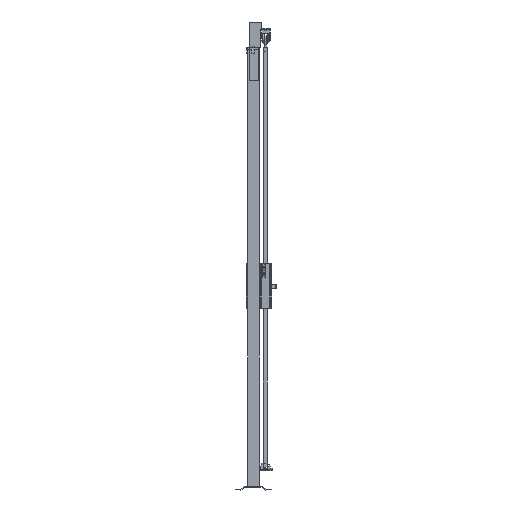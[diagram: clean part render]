
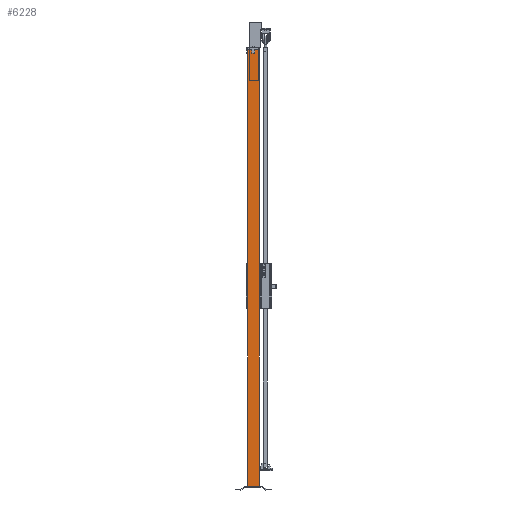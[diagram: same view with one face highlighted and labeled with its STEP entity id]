
A CAD part, left-side view. The second image highlights one B-rep face of the part: STEP entity #6228.
In plain terms, the highlighted planar face has unit normal (-1, 0, 0).
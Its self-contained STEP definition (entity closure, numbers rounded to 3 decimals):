
#523=FACE_OUTER_BOUND('',#972,.T.);
#972=EDGE_LOOP('',(#3824,#3825,#3826,#3827));
#1478=VERTEX_POINT('',#12958);
#1479=VERTEX_POINT('',#12960);
#1482=VERTEX_POINT('',#12967);
#1483=VERTEX_POINT('',#12969);
#2396=EDGE_CURVE('',#1478,#1479,#7173,.T.);
#2400=EDGE_CURVE('',#1482,#1483,#7177,.T.);
#2402=EDGE_CURVE('',#1479,#1482,#7179,.T.);
#2404=EDGE_CURVE('',#1478,#1483,#7181,.T.);
#3824=ORIENTED_EDGE('',*,*,#2404,.T.);
#3825=ORIENTED_EDGE('',*,*,#2400,.F.);
#3826=ORIENTED_EDGE('',*,*,#2402,.F.);
#3827=ORIENTED_EDGE('',*,*,#2396,.F.);
#5822=PLANE('',#9329);
#6228=ADVANCED_FACE('',(#523),#5822,.F.);
#7173=LINE('',#12961,#8333);
#7177=LINE('',#12970,#8337);
#7179=LINE('',#12973,#8339);
#7181=LINE('',#12976,#8341);
#8333=VECTOR('',#10320,1.);
#8337=VECTOR('',#10326,1.);
#8339=VECTOR('',#10330,1.);
#8341=VECTOR('',#10334,1.);
#9329=AXIS2_PLACEMENT_3D('',#12975,#10332,#10333);
#10320=DIRECTION('',(0.,-1.,0.));
#10326=DIRECTION('',(0.,1.,0.));
#10330=DIRECTION('',(0.,0.,-1.));
#10332=DIRECTION('center_axis',(1.,0.,0.));
#10333=DIRECTION('ref_axis',(0.,0.,-1.));
#10334=DIRECTION('',(0.,0.,-1.));
#12958=CARTESIAN_POINT('',(-30.,30.,2320.));
#12960=CARTESIAN_POINT('',(-30.,-30.,2320.));
#12961=CARTESIAN_POINT('',(-30.,0.,2320.));
#12967=CARTESIAN_POINT('',(-30.,-30.,20.));
#12969=CARTESIAN_POINT('',(-30.,30.,20.));
#12970=CARTESIAN_POINT('',(-30.,0.,20.));
#12973=CARTESIAN_POINT('',(-30.,-30.,1170.));
#12975=CARTESIAN_POINT('Origin',(-30.,0.,
1170.));
#12976=CARTESIAN_POINT('',(-30.,30.,1170.));
